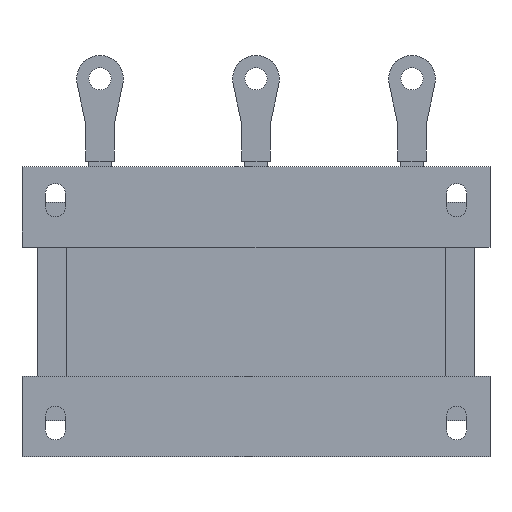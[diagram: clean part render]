
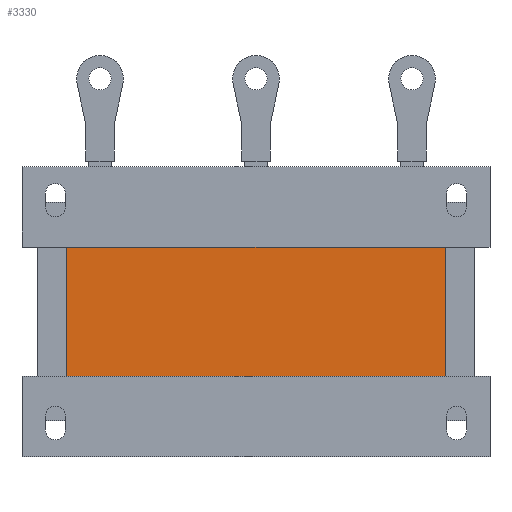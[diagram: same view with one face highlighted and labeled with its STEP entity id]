
A CAD part, front view. The second image highlights one B-rep face of the part: STEP entity #3330.
In plain terms, the highlighted planar face has unit normal (0, -1, 0).
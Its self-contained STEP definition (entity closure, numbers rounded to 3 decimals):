
#184=FACE_OUTER_BOUND('',#380,.T.);
#380=EDGE_LOOP('',(#2297,#2298,#2299,#2300));
#633=LINE('',#4901,#1047);
#634=LINE('',#4903,#1048);
#635=LINE('',#4905,#1049);
#636=LINE('',#4906,#1050);
#1047=VECTOR('',#3954,10.);
#1048=VECTOR('',#3955,10.);
#1049=VECTOR('',#3956,10.);
#1050=VECTOR('',#3957,10.);
#1455=VERTEX_POINT('',#4899);
#1456=VERTEX_POINT('',#4900);
#1457=VERTEX_POINT('',#4902);
#1458=VERTEX_POINT('',#4904);
#1789=EDGE_CURVE('',#1455,#1456,#633,.T.);
#1790=EDGE_CURVE('',#1457,#1455,#634,.T.);
#1791=EDGE_CURVE('',#1458,#1457,#635,.T.);
#1792=EDGE_CURVE('',#1456,#1458,#636,.T.);
#2297=ORIENTED_EDGE('',*,*,#1789,.F.);
#2298=ORIENTED_EDGE('',*,*,#1790,.F.);
#2299=ORIENTED_EDGE('',*,*,#1791,.F.);
#2300=ORIENTED_EDGE('',*,*,#1792,.F.);
#3158=PLANE('',#3583);
#3330=ADVANCED_FACE('',(#184),#3158,.F.);
#3583=AXIS2_PLACEMENT_3D('',#4898,#3952,#3953);
#3952=DIRECTION('center_axis',(0.,1.,0.));
#3953=DIRECTION('ref_axis',(0.,0.,1.));
#3954=DIRECTION('',(1.,0.,0.));
#3955=DIRECTION('',(0.,0.,1.));
#3956=DIRECTION('',(-1.,0.,0.));
#3957=DIRECTION('',(0.,0.,-1.));
#4898=CARTESIAN_POINT('Origin',(0.,2.,0.));
#4899=CARTESIAN_POINT('',(-85.,2.,29.));
#4900=CARTESIAN_POINT('',(85.,2.,29.));
#4901=CARTESIAN_POINT('',(85.,2.,29.));
#4902=CARTESIAN_POINT('',(-85.,2.,-29.));
#4903=CARTESIAN_POINT('',(-85.,2.,-14.5));
#4904=CARTESIAN_POINT('',(85.,2.,-29.));
#4905=CARTESIAN_POINT('',(-85.,2.,-29.));
#4906=CARTESIAN_POINT('',(85.,2.,14.5));
